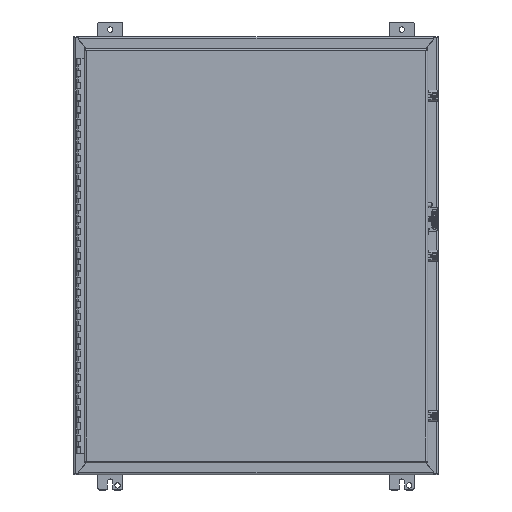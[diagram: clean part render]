
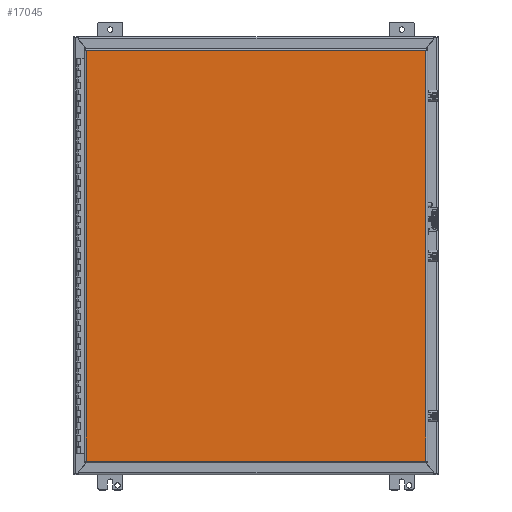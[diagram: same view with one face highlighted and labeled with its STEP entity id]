
A CAD part, top view. The second image highlights one B-rep face of the part: STEP entity #17045.
In plain terms, the highlighted planar face has unit normal (0, 0, 1) as drawn and (0, 1, 0) by its records, which use the part's own axes.
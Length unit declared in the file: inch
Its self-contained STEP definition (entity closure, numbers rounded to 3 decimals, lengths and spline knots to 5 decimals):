
#15460=DIRECTION('',(0.,0.,1.));
#15461=VECTOR('',#15460,27.96);
#15462=CARTESIAN_POINT('',(-16.88638,0.,0.145));
#15463=LINE('',#15462,#15461);
#15512=DIRECTION('',(0.,0.,1.));
#15513=VECTOR('',#15512,27.96);
#15514=CARTESIAN_POINT('',(16.88638,0.,0.145));
#15515=LINE('',#15514,#15513);
#15616=DIRECTION('',(-1.,0.,0.));
#15617=VECTOR('',#15616,33.77275);
#15618=CARTESIAN_POINT('',(16.88638,0.,0.145));
#15619=LINE('',#15618,#15617);
#16112=DIRECTION('',(-1.,0.,0.));
#16113=VECTOR('',#16112,33.77275);
#16114=CARTESIAN_POINT('',(16.88638,0.,28.105));
#16115=LINE('',#16114,#16113);
#16396=CARTESIAN_POINT('',(16.88638,0.,0.145));
#16397=CARTESIAN_POINT('',(-16.88638,0.,0.145));
#16398=VERTEX_POINT('',#16396);
#16399=VERTEX_POINT('',#16397);
#16400=CARTESIAN_POINT('',(16.88638,0.,28.105));
#16401=CARTESIAN_POINT('',(-16.88638,0.,28.105));
#16402=VERTEX_POINT('',#16400);
#16403=VERTEX_POINT('',#16401);
#17031=CARTESIAN_POINT('',(17.03138,0.,0.));
#17032=DIRECTION('',(0.,1.,0.));
#17033=DIRECTION('',(-1.,0.,0.));
#17034=AXIS2_PLACEMENT_3D('',#17031,#17032,#17033);
#17035=PLANE('',#17034);
#17037=ORIENTED_EDGE('',*,*,#17036,.T.);
#17039=ORIENTED_EDGE('',*,*,#17038,.T.);
#17040=ORIENTED_EDGE('',*,*,#17021,.F.);
#17042=ORIENTED_EDGE('',*,*,#17041,.F.);
#17043=EDGE_LOOP('',(#17037,#17039,#17040,#17042));
#17044=FACE_OUTER_BOUND('',#17043,.F.);
#17021=EDGE_CURVE('',#16399,#16403,#15463,.T.);
#17036=EDGE_CURVE('',#16398,#16402,#15515,.T.);
#17038=EDGE_CURVE('',#16402,#16403,#16115,.T.);
#17041=EDGE_CURVE('',#16398,#16399,#15619,.T.);
#17045=ADVANCED_FACE('',(#17044),#17035,.T.);
